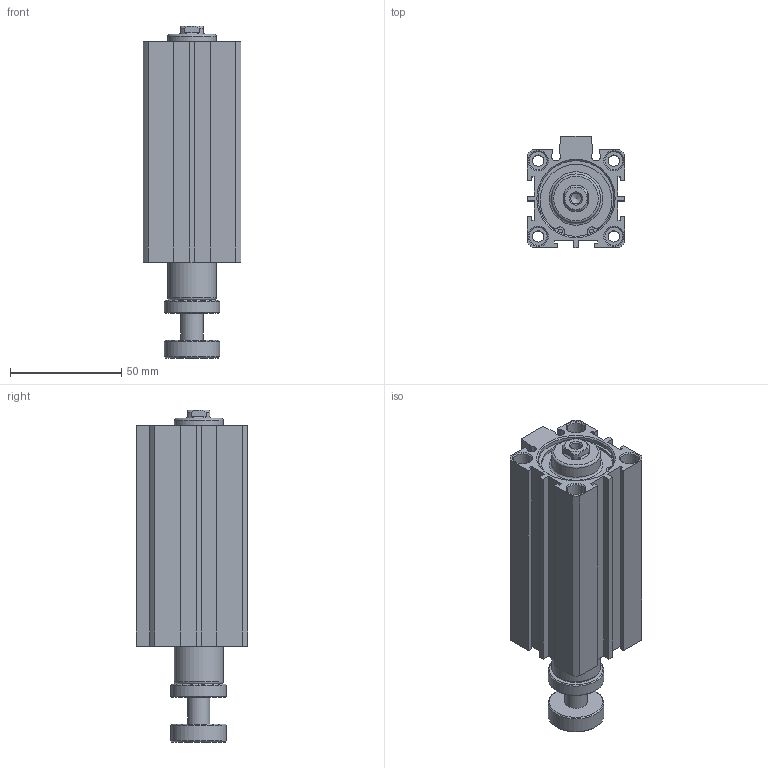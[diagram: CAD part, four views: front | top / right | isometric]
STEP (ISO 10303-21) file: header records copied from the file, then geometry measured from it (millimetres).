
FILE_DESCRIPTION((''),'2;1');
FILE_NAME('I:\3D電子目錄\氣缸\JDAR\JDAR\JDAR32\JDAR32x75.stp','2007-03-14T10:15:34',('662F206'),(''),'Autodesk Inventor 11','Autodesk Inventor 11','');
FILE_SCHEMA(('AUTOMOTIVE_DESIGN { 1 0 10303 214 1 1 1 1 }'));
Length unit declared in the file: millimetre
Products named in the file (3): JDAR32; R 形環 35
Assembly tree (3 placements, depth 2):
  JDAR32
    JDAR32
    R 形環 35  x2
Bounding box: 44 x 50 x 149.1 mm (x, y, z)
Volume: 181976.6 mm3; surface area: 43898.9 mm2
Topology: 3 solids, 3 shells, 170 faces, 399 edges, 259 vertices
Faces by surface type: plane 88, cylinder 51, cone 21, bspline 8, torus 2
Full cylindrical faces by diameter (mm): 1.9 x4, 2.2 x2, 5.1 x4, 8 x8, 10 x1, 22 x2, 25 x2, 34 x4, 36 x2
Entity records: 4435 total; most frequent: CARTESIAN_POINT 886, DIRECTION 740, ORIENTED_EDGE 622, EDGE_CURVE 311, AXIS2_PLACEMENT_3D 281, EDGE_LOOP 246, VERTEX_POINT 233, VECTOR 178
